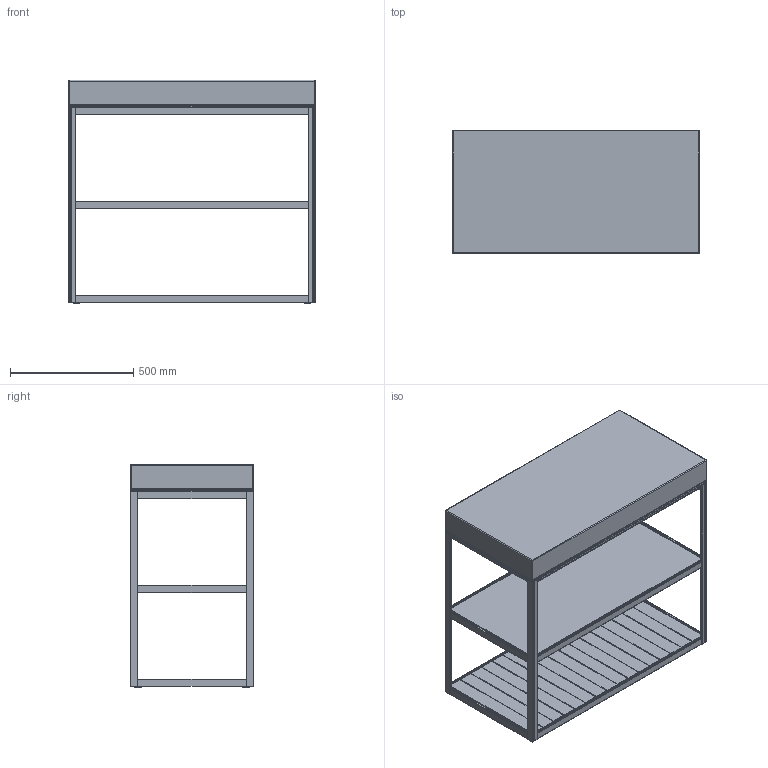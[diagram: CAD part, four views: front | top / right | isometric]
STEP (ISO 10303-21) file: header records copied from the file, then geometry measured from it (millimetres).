
FILE_DESCRIPTION(/* description */ (''),/* implementation_level */ '2;1');
FILE_NAME(/* name */ 'C:\Vault_WF\Designs\# ARKITEKT FILER\Pizza Owen\Side Board Anthracite.stp',/* time_stamp */ '2022-10-26T12:00:25+02:00',/* author */ ('TorbjörnMalm'),/* organization */ (''),/* preprocessor_version */ 'ST-DEVELOPER v18.1',/* originating_system */ 'Autodesk Inventor 2021',/* authorisation */ '');
FILE_SCHEMA (('CONFIG_CONTROL_DESIGN'));
Length unit declared in the file: millimetre
Products named in the file (39): Side Board Anthracite; 101420; 101422; 101419; Frame 1623760278105; Skeleton 1623760278106; CSN EN 10305-5 - 20 x 10 x 1,25  - 790; CSN EN 10305-5 - 20 x 10 x 1,25  - 790_1; CSN EN 10305-5 - 20 x 10 x 1,25  - 790_2; CSN EN 10305-5 - 20 x 10 x 1,25  - 790_3; CSN EN 10305-5 - 30 x 10 x 1,25  - 1000; CSN EN 10305-5 - 30 x 10 x 1,25  - 500; CSN EN 10305-5 - 30 x 10 x 1,25  - 1000_1; CSN EN 10305-5 - 30 x 10 x 1,25  - 500_1; CSN EN 10305-5 - 30 x 10 x 1,25  - 440; CSN EN 10305-5 - 30 x 10 x 1,25  - 790; CSN EN 10305-5 - 30 x 10 x 1,25  - 790_1; CSN EN 10305-5 - 30 x 10 x 1,25  - 440_1; CSN EN 10305-5 - 30 x 10 x 1,25  - 790_2; CSN EN 10305-5 - 30 x 10 x 1,25  - 790_3; CSN EN 10305-5 - 30 x 10 x 1,25  - 440_2; CSN EN 10305-5 - 30 x 10 x 1,25  - 440_3; CSN EN 10305-5 - 30 x 10 x 1,25  - 940; CSN EN 10305-5 - 30 x 10 x 1,25  - 940_1; CSN EN 10305-5 - 30 x 10 x 1,25  - 940_2; CSN EN 10305-5 - 30 x 10 x 1,25  - 940_3; CSN EN 10305-5 - 30 x 10 x 1,25  - 940_4; CSN EN 10305-5 - 30 x 10 x 1,25  - 940_5; CSN EN 10305-5 - 30 x 10 x 1,25  - 480; CSN EN 10305-5 - 30 x 10 x 1,25  - 480_1; 100131; 101206; 101424; 101429; 101430; DIN EN ISO 7049 - ST3.5 x 16 - C - H; 101431; Side Board Marble Top; 100287
Assembly tree (123 placements, depth 5):
  Side Board Anthracite
    101420
      101422
      101419
        Frame 1623760278105
          Skeleton 1623760278106
          CSN EN 10305-5 - 20 x 10 x 1,25  - 790
          CSN EN 10305-5 - 20 x 10 x 1,25  - 790_1
          CSN EN 10305-5 - 20 x 10 x 1,25  - 790_2
          CSN EN 10305-5 - 20 x 10 x 1,25  - 790_3
          CSN EN 10305-5 - 30 x 10 x 1,25  - 1000
          CSN EN 10305-5 - 30 x 10 x 1,25  - 500
          CSN EN 10305-5 - 30 x 10 x 1,25  - 1000_1
          CSN EN 10305-5 - 30 x 10 x 1,25  - 500_1
          CSN EN 10305-5 - 30 x 10 x 1,25  - 440
          CSN EN 10305-5 - 30 x 10 x 1,25  - 790
          CSN EN 10305-5 - 30 x 10 x 1,25  - 790_1
          CSN EN 10305-5 - 30 x 10 x 1,25  - 440_1
          CSN EN 10305-5 - 30 x 10 x 1,25  - 790_2
          CSN EN 10305-5 - 30 x 10 x 1,25  - 790_3
          CSN EN 10305-5 - 30 x 10 x 1,25  - 440_2
          CSN EN 10305-5 - 30 x 10 x 1,25  - 440_3
          CSN EN 10305-5 - 30 x 10 x 1,25  - 940
          CSN EN 10305-5 - 30 x 10 x 1,25  - 940_1
          CSN EN 10305-5 - 30 x 10 x 1,25  - 940_2
          CSN EN 10305-5 - 30 x 10 x 1,25  - 940_3
          CSN EN 10305-5 - 30 x 10 x 1,25  - 940_4
          CSN EN 10305-5 - 30 x 10 x 1,25  - 940_5
          CSN EN 10305-5 - 30 x 10 x 1,25  - 480
          CSN EN 10305-5 - 30 x 10 x 1,25  - 480_1
      100131  x4
      101206  x2
    101424
      101431  x14
      101429  x2
      101430  x2
      DIN EN ISO 7049 - ST3.5 x 16 - C - H  x64
    Side Board Marble Top
    100287  x4
Bounding box: 1000 x 500 x 905 mm (x, y, z)
Volume: 35467431.2 mm3; surface area: 7509908.9 mm2
Topology: 120 solids, 121 shells, 2548 faces, 6686 edges, 4388 vertices
Faces by surface type: plane 1046, cone 768, cylinder 398, torus 256, sphere 80
Full cylindrical faces by diameter (mm): 3.5 x64, 4.2 x8, 4.5 x64, 6.2 x10, 6.647 x4, 8 x4, 25 x4, 28 x4
Entity records: 23447 total; most frequent: DIRECTION 4071, CARTESIAN_POINT 3875, ORIENTED_EDGE 3496, EDGE_CURVE 1748, AXIS2_PLACEMENT_3D 1485, VERTEX_POINT 1129, LINE 1101, VECTOR 1101
